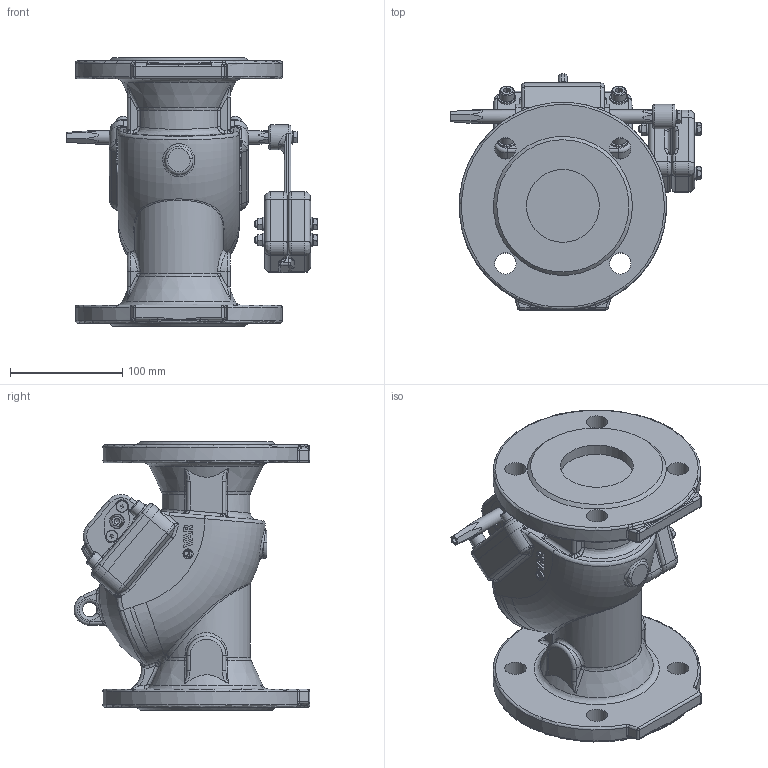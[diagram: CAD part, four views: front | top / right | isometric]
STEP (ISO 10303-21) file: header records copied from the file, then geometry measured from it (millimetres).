
FILE_DESCRIPTION(('STEP AP203'), '1');
FILE_NAME('VAR LIMU-STOP Îáðàòíûé êëàïàí DN 65 PN 16 c ðû÷àãîì è ïðîòèâîâåñîì', '2026-06-28T08:29:23', (' '), (' '), 'C3D Converter', 'C3D Toolkit', '');
FILE_SCHEMA(('CONFIG_CONTROL_DESIGN'));
Length unit declared in the file: millimetre
Products named in the file (1): Admi0C102497dkww
Bounding box: 223.4 x 210.48 x 240 mm (x, y, z)
Volume: 3165590.6 mm3; surface area: 249611.7 mm2
Topology: 1 solids, 13 shells, 1065 faces, 2742 edges, 1726 vertices
Faces by surface type: plane 372, cylinder 234, bspline 170, extrusion 150, torus 81, cone 36, sphere 22
Full cylindrical faces by diameter (mm): 4.917 x2, 5 x4, 5.5 x4, 6 x7, 6.4 x5, 6.647 x2, 8 x4, 8.4 x7, 9.076 x1, 10 x4, 12 x7, 13 x7, 16 x4, 19 x8, 22 x1, 65 x2
Entity records: 72056 total; most frequent: CARTESIAN_POINT 41114, ORIENTED_EDGE 5154, DIRECTION 3784, EDGE_CURVE 2577, VERTEX_POINT 1704, AXIS2_PLACEMENT_3D 1336, EDGE_LOOP 1277, FACE_BOUND 1225
